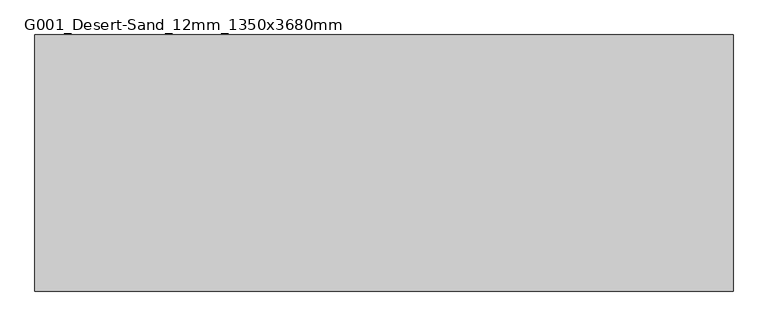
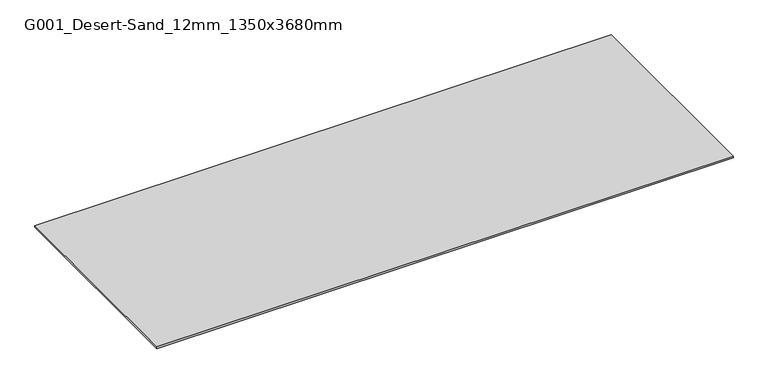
"""IFC4 building model written with IfcOpenShell, lengths in millimetres: proxy geometry, Kitchen_Counter-Tops_Indoor-Materials_HIMACS_Sand&Perl : G001_Desert-Sand_12mm_1350x3680mm."""

import ifcopenshell
import ifcopenshell.guid

model = None  # the IFC model being written
_history = None  # IfcOwnerHistory: only IFC2X3 demands one
_inside = {}  # id of a spatial element -> (the spatial element, [elements in it])
_under = {}  # id of a project, library or spatial element -> (it, [spatial elements below it])
_declared = {}  # id of a project -> (the project, [libraries it declares])
_typed = {}  # id of a type object -> (the type object, [elements of that type])
_made_of = {}  # id of a material, layer set ... -> (it, [elements and type objects made of it])


def new_model(schema):
    """Start an empty IFC model of exactly this schema.

    Asked for "IFC4X3", IfcOpenShell would pick the latest addendum, in which some entities
    have other attributes; the version numbers below select the first issue.
    IFC2X3 requires an IfcOwnerHistory on every rooted entity: one is made here for all.
    """
    global model, _history
    if schema == "IFC4X3":
        model = ifcopenshell.file(schema_version=(4, 3, 0, 0))
    else:
        model = ifcopenshell.file(schema=schema)
    _inside.clear()
    _under.clear()
    _declared.clear()
    _typed.clear()
    _made_of.clear()
    _history = None
    if model.schema == "IFC2X3":
        org = make("IfcOrganization", Name="unknown")
        user = make(
            "IfcPersonAndOrganization",
            ThePerson=make("IfcPerson", FamilyName="unknown"),
            TheOrganization=org,
        )
        app = make(
            "IfcApplication",
            ApplicationDeveloper=org,
            Version="unknown",
            ApplicationFullName="unknown",
            ApplicationIdentifier="unknown",
        )
        _history = make(
            "IfcOwnerHistory",
            OwningUser=user,
            OwningApplication=app,
            ChangeAction="ADDED",
            CreationDate=0,
        )
    return model


def make(cls, **values):
    """One entity of the class cls with the attributes given. An attribute that is None is left unset."""
    return model.create_entity(
        cls, **{name: value for name, value in values.items() if value is not None}
    )


def rooted(cls, **values):
    """An entity with a GlobalId (a new one), such as an element, a storey or a relation."""
    return make(cls, GlobalId=ifcopenshell.guid.new(), OwnerHistory=_history, **values)


def si_unit(unit_type, name, prefix=None):
    """IfcSIUnit, for example si_unit("LENGTHUNIT", "METRE", prefix="MILLI")."""
    return make("IfcSIUnit", UnitType=unit_type, Prefix=prefix, Name=name)


def assignment(units):
    """IfcUnitAssignment: the units of a project."""
    return None if units is None else make("IfcUnitAssignment", Units=units)


def point(xyz):
    """IfcCartesianPoint."""
    return None if xyz is None else make("IfcCartesianPoint", Coordinates=xyz)


def direction(xyz):
    """IfcDirection."""
    return None if xyz is None else make("IfcDirection", DirectionRatios=xyz)


def frame(location, z_axis=None, x_axis=None):
    """IfcAxis2Placement3D, a coordinate frame: its origin and axes. An axis left out is left unset."""
    return make(
        "IfcAxis2Placement3D",
        Location=point(location),
        Axis=direction(z_axis),
        RefDirection=direction(x_axis),
    )


def origin():
    """The frame at (0, 0, 0) with its axes left unset."""
    return frame((0.0, 0.0, 0.0))


def origin_with_axes():
    """The frame at (0, 0, 0) with the z axis (0, 0, 1) and the x axis (1, 0, 0) written out."""
    return frame((0.0, 0.0, 0.0), z_axis=(0.0, 0.0, 1.0), x_axis=(1.0, 0.0, 0.0))


def place(relative_to, where):
    """IfcLocalPlacement: puts the frame where relative to a parent placement (None: the world)."""
    return make(
        "IfcLocalPlacement", PlacementRelTo=relative_to, RelativePlacement=where
    )


def context(
    kind, dimensions, precision=None, world=None, true_north=None, identifier=None
):
    """IfcGeometricRepresentationContext, for example the 3D "Model" context."""
    return make(
        "IfcGeometricRepresentationContext",
        ContextIdentifier=identifier,
        ContextType=kind,
        CoordinateSpaceDimension=dimensions,
        Precision=precision,
        WorldCoordinateSystem=world,
        TrueNorth=true_north,
    )


def project(units=None, contexts=None):
    """IfcProject with its units and contexts."""
    return rooted(
        "IfcProject",
        Name="project",
        RepresentationContexts=contexts,
        UnitsInContext=assignment(units),
    )


def spatial(cls, under=None, at=None, **own):
    """A site, building, storey or space (cls), placed at a placement, below another one or the project."""
    s = rooted(cls, ObjectPlacement=at, **own)
    if under is not None:
        _under.setdefault(under.id(), (under, []))[1].append(s)
    return s


def polyline(points):
    """IfcPolyline through the points."""
    return make("IfcPolyline", Points=[point(p) for p in points])


def outline(outer, holes=None, kind="AREA"):
    """IfcArbitraryClosedProfileDef: a profile drawn as a closed curve; with holes, ...WithVoids."""
    if holes is None:
        return make("IfcArbitraryClosedProfileDef", ProfileType=kind, OuterCurve=outer)
    return make(
        "IfcArbitraryProfileDefWithVoids",
        ProfileType=kind,
        OuterCurve=outer,
        InnerCurves=holes,
    )


def extrude(swept, where, along, depth):
    """IfcExtrudedAreaSolid: the profile swept, set in the frame where, extruded along a direction by depth."""
    return make(
        "IfcExtrudedAreaSolid",
        SweptArea=swept,
        Position=where,
        ExtrudedDirection=direction(along),
        Depth=depth,
    )


def shape(context_of_items, identifier, shape_type, items):
    """IfcShapeRepresentation: the items that make up one representation, for example the "Body"."""
    return make(
        "IfcShapeRepresentation",
        ContextOfItems=context_of_items,
        RepresentationIdentifier=identifier,
        RepresentationType=shape_type,
        Items=items,
    )


def source(mapping_origin, context_of_items, identifier, shape_type, items):
    """IfcRepresentationMap: a shape defined once, which mapped items show again and again."""
    return make(
        "IfcRepresentationMap",
        MappingOrigin=mapping_origin,
        MappedRepresentation=shape(context_of_items, identifier, shape_type, items),
    )


def transform(
    local_origin,
    x_axis=None,
    y_axis=None,
    z_axis=None,
    scale=None,
    scale2=None,
    scale3=None,
    uniform=True,
):
    """IfcCartesianTransformationOperator3D, or its non-uniform kind. x_axis, y_axis, z_axis: its Axis1, 2, 3."""
    if uniform:
        return make(
            "IfcCartesianTransformationOperator3D",
            Axis1=direction(x_axis),
            Axis2=direction(y_axis),
            LocalOrigin=point(local_origin),
            Scale=scale,
            Axis3=direction(z_axis),
        )
    return make(
        "IfcCartesianTransformationOperator3DnonUniform",
        Axis1=direction(x_axis),
        Axis2=direction(y_axis),
        LocalOrigin=point(local_origin),
        Scale=scale,
        Axis3=direction(z_axis),
        Scale2=scale2,
        Scale3=scale3,
    )


def mapped(mapping_source, mapping_target):
    """IfcMappedItem: shows the shape of a source again, moved by a transform."""
    return make(
        "IfcMappedItem", MappingSource=mapping_source, MappingTarget=mapping_target
    )


def made_of(thing, what):
    """Note that an element or type object is made of a material, layer set ...; save() writes the relation."""
    if what is not None:
        _made_of.setdefault(what.id(), (what, []))[1].append(thing)
    return thing


def element(
    cls,
    number,
    at=None,
    inside=None,
    cuts=None,
    type_object=None,
    material=None,
    context=None,
    identifier="Body",
    shape_type=None,
    held_by="IfcProductDefinitionShape",
    body=None,
    shapes=None,
    **own,
):
    """One element of the class cls, such as IfcWall. Its Tag is "e" and its number.

    at: its placement. inside: the storey or other place that contains it. cuts: it is an
    opening in that element (IfcRelVoidsElement). A single representation is given by context,
    identifier, shape_type and body (its items); several are given by shapes. held_by: the class
    of the entity that holds the representations. save() writes the other relations.
    """
    e = rooted(cls, Tag="e%d" % number, ObjectPlacement=at, **own)
    if body is not None:
        shapes = [shape(context, identifier, shape_type, body)]
    if shapes is not None:
        e.Representation = make(held_by, Representations=shapes)
    if inside is not None:
        _inside.setdefault(inside.id(), (inside, []))[1].append(e)
    if cuts is not None:
        rooted(
            "IfcRelVoidsElement", RelatingBuildingElement=cuts, RelatedOpeningElement=e
        )
    if type_object is not None:
        _typed.setdefault(type_object.id(), (type_object, []))[1].append(e)
    return made_of(e, material)


def aggregate(whole, parts):
    """IfcRelAggregates: a whole, such as a stair, and the parts it consists of."""
    return rooted("IfcRelAggregates", RelatingObject=whole, RelatedObjects=parts)


def save(model, path):
    """Write the relations noted so far, then the file.

    IfcRelAggregates (storeys below a building ...), IfcRelContainedInSpatialStructure (elements
    in a storey), IfcRelDefinesByType, IfcRelAssociatesMaterial and IfcRelDeclares: one each for
    every whole, place, type object, material and project.
    """
    for whole, parts in _under.values():
        aggregate(whole, parts)
    for where, things in _inside.values():
        rooted(
            "IfcRelContainedInSpatialStructure",
            RelatedElements=things,
            RelatingStructure=where,
        )
    for kind, things in _typed.values():
        rooted("IfcRelDefinesByType", RelatedObjects=things, RelatingType=kind)
    for what, things in _made_of.values():
        rooted("IfcRelAssociatesMaterial", RelatedObjects=things, RelatingMaterial=what)
    for by, libraries in _declared.values():
        rooted("IfcRelDeclares", RelatingContext=by, RelatedDefinitions=libraries)
    model.write(path)


def g001_desert_sand_12mm_1350x3680mm_c2ce3097(model_context):
    return source(origin(), model_context, "Body", "SweptSolid", [
        extrude(outline(polyline([(1840.0, 675.0), (1840.0, -675.0), (-1840.0, -675.0), (-1840.0, 675.0), (1840.0, 675.0)])), origin_with_axes(), (0.0, 0.0, 1.0), 12.0),
    ])


if __name__ == "__main__":
    model = new_model("IFC4")
    model_context = context("Model", 3, world=origin())
    ifc_project = project(units=[si_unit("LENGTHUNIT", "METRE", prefix="MILLI")], contexts=[model_context])
    site = spatial("IfcSite", under=ifc_project)
    building = spatial("IfcBuilding", under=site)
    placement = place(None, origin())
    g001_desert_sand_12mm_1350x3680mm_shape = g001_desert_sand_12mm_1350x3680mm_c2ce3097(model_context)
    element("IfcBuildingElementProxy", 1, Name="Kitchen_Counter-Tops_Indoor-Materials_HIMACS_Sand&Perl : G001_Desert-Sand_12mm_1350x3680mm", ObjectType="Kitchen_Counter-Tops_Indoor-Materials_HIMACS_Sand&Perl : G001_Desert-Sand_12mm_1350x3680mm", at=placement, inside=building, context=model_context, shape_type="MappedRepresentation", body=[
        mapped(g001_desert_sand_12mm_1350x3680mm_shape, transform((0.0, 0.0, 0.0), x_axis=(1.0, 0.0, 0.0), y_axis=(0.0, 1.0, 0.0), z_axis=(0.0, 0.0, 1.0))),
    ])
    save(model, "model.ifc")
